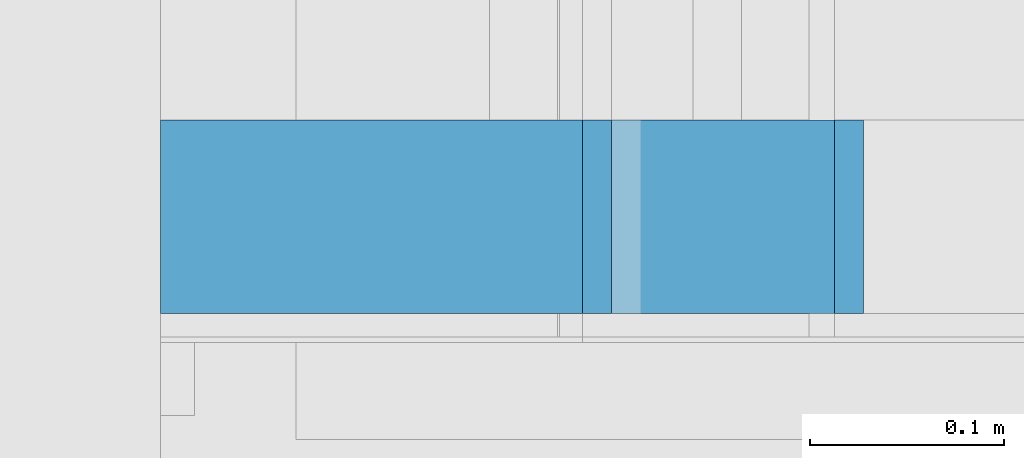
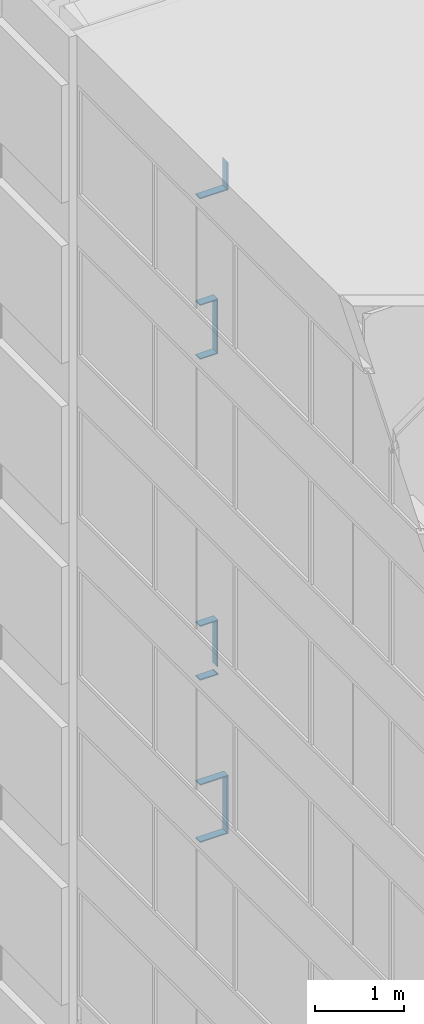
# One storey, part 207 of 583: 12 building element parts, 11 elements without a shape of their own.
"""IFC2X3 building model written with IfcOpenShell, lengths in metres."""

from ifc_helpers import new_model, entity, si_unit, converted_unit, derived_unit, money_unit, direction, frame, origin_with_axes, place, context, subcontext, project, spatial, polyline, outline, extrude, material, type_object, element, aggregate, save


model = new_model("IFC2X3")

# Units and contexts
model_context = context("Model", 3, precision=1e-05, world=origin_with_axes(), true_north=direction((0.0, 1.0)))
body_context = subcontext(model_context, "Body", "Model", "MODEL_VIEW", scale=1.0)
ifc_project = project(units=[si_unit("LENGTHUNIT", "METRE"), si_unit("AREAUNIT", "SQUARE_METRE"), si_unit("VOLUMEUNIT", "CUBIC_METRE"), si_unit("ABSORBEDDOSEUNIT", "GRAY"), si_unit("AMOUNTOFSUBSTANCEUNIT", "MOLE"), si_unit("DOSEEQUIVALENTUNIT", "SIEVERT"), si_unit("ELECTRICCAPACITANCEUNIT", "FARAD"), si_unit("ELECTRICCHARGEUNIT", "COULOMB"), si_unit("ELECTRICCONDUCTANCEUNIT", "SIEMENS"), si_unit("ELECTRICCURRENTUNIT", "AMPERE"), si_unit("ELECTRICRESISTANCEUNIT", "OHM"), si_unit("ELECTRICVOLTAGEUNIT", "VOLT"), si_unit("ENERGYUNIT", "JOULE"), si_unit("FORCEUNIT", "NEWTON"), si_unit("FREQUENCYUNIT", "HERTZ"), si_unit("ILLUMINANCEUNIT", "LUX"), si_unit("INDUCTANCEUNIT", "HENRY"), si_unit("LUMINOUSFLUXUNIT", "LUMEN"), si_unit("LUMINOUSINTENSITYUNIT", "CANDELA"), si_unit("MAGNETICFLUXDENSITYUNIT", "TESLA"), si_unit("MAGNETICFLUXUNIT", "WEBER"), si_unit("MASSUNIT", "GRAM"), converted_unit("PLANEANGLEUNIT", "degree", entity("IfcReal", 0.0174532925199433), si_unit("PLANEANGLEUNIT", "RADIAN"), dimensions=[0, 0, 0, 0, 0, 0, 0]), si_unit("POWERUNIT", "WATT"), si_unit("PRESSUREUNIT", "PASCAL"), si_unit("RADIOACTIVITYUNIT", "BECQUEREL"), si_unit("SOLIDANGLEUNIT", "STERADIAN"), si_unit("THERMODYNAMICTEMPERATUREUNIT", "KELVIN"), si_unit("TIMEUNIT", "SECOND"), derived_unit("ACCELERATIONUNIT", [(si_unit("LENGTHUNIT", "METRE"), 1), (si_unit("TIMEUNIT", "SECOND"), -2)]), derived_unit("ANGULARVELOCITYUNIT", [(converted_unit("PLANEANGLEUNIT", "degree", entity("IfcReal", 0.0174532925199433), si_unit("PLANEANGLEUNIT", "RADIAN"), dimensions=[0, 0, 0, 0, 0, 0, 0]), 1), (si_unit("TIMEUNIT", "SECOND"), -1)]), derived_unit("CURVATUREUNIT", [(converted_unit("PLANEANGLEUNIT", "degree", entity("IfcReal", 0.0174532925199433), si_unit("PLANEANGLEUNIT", "RADIAN"), dimensions=[0, 0, 0, 0, 0, 0, 0]), 1), (si_unit("LENGTHUNIT", "METRE"), -1)]), derived_unit("DYNAMICVISCOSITYUNIT", [(si_unit("PRESSUREUNIT", "PASCAL"), 1), (si_unit("TIMEUNIT", "SECOND"), 1)]), derived_unit("HEATFLUXDENSITYUNIT", [(si_unit("POWERUNIT", "WATT"), 1), (si_unit("LENGTHUNIT", "METRE"), -2)]), derived_unit("HEATINGVALUEUNIT", [(si_unit("ENERGYUNIT", "JOULE"), 1), (si_unit("MASSUNIT", "GRAM"), -1)]), derived_unit("INTEGERCOUNTRATEUNIT", [(si_unit("TIMEUNIT", "SECOND"), -1)]), derived_unit("IONCONCENTRATIONUNIT", [(si_unit("MASSUNIT", "GRAM"), 1), (si_unit("VOLUMEUNIT", "CUBIC_METRE"), -1)]), derived_unit("ISOTHERMALMOISTURECAPACITYUNIT", [(si_unit("VOLUMEUNIT", "CUBIC_METRE"), 1), (si_unit("MASSUNIT", "GRAM"), -1)]), derived_unit("KINEMATICVISCOSITYUNIT", [(si_unit("AREAUNIT", "SQUARE_METRE"), 1), (si_unit("TIMEUNIT", "SECOND"), -1)]), derived_unit("LINEARFORCEUNIT", [(si_unit("FORCEUNIT", "NEWTON"), 1), (si_unit("LENGTHUNIT", "METRE"), -1)]), derived_unit("LINEARMOMENTUNIT", [(si_unit("FORCEUNIT", "NEWTON"), 1), (si_unit("LENGTHUNIT", "METRE"), -1)]), derived_unit("LINEARSTIFFNESSUNIT", [(si_unit("FORCEUNIT", "NEWTON"), 1), (si_unit("LENGTHUNIT", "METRE"), -1)]), derived_unit("LINEARVELOCITYUNIT", [(si_unit("LENGTHUNIT", "METRE"), 1), (si_unit("TIMEUNIT", "SECOND"), -1)]), derived_unit("LUMINOUSINTENSITYDISTRIBUTIONUNIT", [(si_unit("LUMINOUSINTENSITYUNIT", "CANDELA"), 1), (si_unit("LUMINOUSFLUXUNIT", "LUMEN"), -1)]), derived_unit("MASSDENSITYUNIT", [(si_unit("MASSUNIT", "GRAM"), 1), (si_unit("VOLUMEUNIT", "CUBIC_METRE"), -1)]), derived_unit("MASSFLOWRATEUNIT", [(si_unit("MASSUNIT", "GRAM"), 1), (si_unit("TIMEUNIT", "SECOND"), -1)]), derived_unit("MASSPERLENGTHUNIT", [(si_unit("MASSUNIT", "GRAM"), 1), (si_unit("LENGTHUNIT", "METRE"), -1)]), derived_unit("MODULUSOFELASTICITYUNIT", [(si_unit("FORCEUNIT", "NEWTON"), 1), (si_unit("AREAUNIT", "SQUARE_METRE"), -1)]), derived_unit("MODULUSOFLINEARSUBGRADEREACTIONUNIT", [(si_unit("FORCEUNIT", "NEWTON"), 1), (si_unit("LENGTHUNIT", "METRE"), -2)]), derived_unit("MODULUSOFROTATIONALSUBGRADEREACTIONUNIT", [(si_unit("FORCEUNIT", "NEWTON"), 1), (si_unit("LENGTHUNIT", "METRE"), 1)]), derived_unit("MODULUSOFSUBGRADEREACTIONUNIT", [(si_unit("FORCEUNIT", "NEWTON"), 1), (si_unit("VOLUMEUNIT", "CUBIC_METRE"), -1)]), derived_unit("MOISTUREDIFFUSIVITYUNIT", [(si_unit("VOLUMEUNIT", "CUBIC_METRE"), 1), (si_unit("TIMEUNIT", "SECOND"), -1)]), derived_unit("MOLECULARWEIGHTUNIT", [(si_unit("MASSUNIT", "GRAM"), 1), (si_unit("AMOUNTOFSUBSTANCEUNIT", "MOLE"), -1)]), derived_unit("PLANARFORCEUNIT", [(si_unit("FORCEUNIT", "NEWTON"), 1), (si_unit("LENGTHUNIT", "METRE"), -2)]), derived_unit("ROTATIONALFREQUENCYUNIT", [(si_unit("TIMEUNIT", "SECOND"), -1)]), derived_unit("ROTATIONALMASSUNIT", [(si_unit("MASSUNIT", "GRAM"), 1), (si_unit("LENGTHUNIT", "METRE"), 2)]), derived_unit("ROTATIONALSTIFFNESSUNIT", [(si_unit("FORCEUNIT", "NEWTON"), 1), (si_unit("LENGTHUNIT", "METRE"), 1), (converted_unit("PLANEANGLEUNIT", "degree", entity("IfcReal", 0.0174532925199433), si_unit("PLANEANGLEUNIT", "RADIAN"), dimensions=[0, 0, 0, 0, 0, 0, 0]), -1)]), derived_unit("SECTIONAREAINTEGRALUNIT", [(si_unit("LENGTHUNIT", "METRE"), 5)]), derived_unit("SECTIONMODULUSUNIT", [(si_unit("LENGTHUNIT", "METRE"), 3)]), derived_unit("SHEARMODULUSUNIT", [(si_unit("FORCEUNIT", "NEWTON"), 1), (si_unit("AREAUNIT", "SQUARE_METRE"), -1)]), derived_unit("SOUNDPOWERUNIT", [(si_unit("ENERGYUNIT", "JOULE"), 1), (si_unit("TIMEUNIT", "SECOND"), -1)]), derived_unit("SPECIFICHEATCAPACITYUNIT", [(si_unit("FORCEUNIT", "NEWTON"), 1), (si_unit("MASSUNIT", "GRAM"), -1), (si_unit("THERMODYNAMICTEMPERATUREUNIT", "KELVIN"), -1)]), derived_unit("TEMPERATUREGRADIENTUNIT", [(si_unit("THERMODYNAMICTEMPERATUREUNIT", "KELVIN"), 1), (si_unit("LENGTHUNIT", "METRE"), -1)]), derived_unit("THERMALADMITTANCEUNIT", [(si_unit("POWERUNIT", "WATT"), 1), (si_unit("AREAUNIT", "SQUARE_METRE"), -1), (si_unit("THERMODYNAMICTEMPERATUREUNIT", "KELVIN"), -1)]), derived_unit("THERMALCONDUCTANCEUNIT", [(si_unit("POWERUNIT", "WATT"), 1), (si_unit("LENGTHUNIT", "METRE"), -1), (si_unit("THERMODYNAMICTEMPERATUREUNIT", "KELVIN"), -1)]), derived_unit("THERMALEXPANSIONCOEFFICIENTUNIT", [(si_unit("THERMODYNAMICTEMPERATUREUNIT", "KELVIN"), -1)]), derived_unit("THERMALRESISTANCEUNIT", [(si_unit("AREAUNIT", "SQUARE_METRE"), 1), (si_unit("POWERUNIT", "WATT"), -1)]), derived_unit("THERMALTRANSMITTANCEUNIT", [(si_unit("POWERUNIT", "WATT"), 1), (si_unit("AREAUNIT", "SQUARE_METRE"), -1), (si_unit("THERMODYNAMICTEMPERATUREUNIT", "KELVIN"), -1)]), derived_unit("TORQUEUNIT", [(si_unit("FORCEUNIT", "NEWTON"), 1), (si_unit("LENGTHUNIT", "METRE"), 1)]), derived_unit("VAPORPERMEABILITYUNIT", [(si_unit("MASSUNIT", "GRAM"), 1), (si_unit("TIMEUNIT", "SECOND"), -1)]), derived_unit("VOLUMETRICFLOWRATEUNIT", [(si_unit("VOLUMEUNIT", "CUBIC_METRE"), 1), (si_unit("TIMEUNIT", "SECOND"), -1)]), derived_unit("WARPINGCONSTANTUNIT", [(si_unit("LENGTHUNIT", "METRE"), 6)]), derived_unit("WARPINGMOMENTUNIT", [(si_unit("FORCEUNIT", "NEWTON"), 1), (si_unit("LENGTHUNIT", "METRE"), 2)]), money_unit("GBP")], contexts=[model_context])

# Site, building, storey
site_placement = place(None, origin_with_axes())
site = spatial("IfcSite", under=ifc_project, at=site_placement, Name="Site", CompositionType="ELEMENT")
building_placement = place(site_placement, origin_with_axes())
building = spatial("IfcBuilding", under=site, at=building_placement, Name="Building01", CompositionType="ELEMENT")
storey_placement = place(building_placement, frame((0.0, 0.0, 20.78), z_axis=(0.0, 0.0, 1.0), x_axis=(1.0, 0.0, 0.0)))
storey = spatial("IfcBuildingStorey", under=building, at=storey_placement, Name="RL", CompositionType="ELEMENT", Elevation=20.78)

# Wall, building element part
wall_type = type_object("IfcWallType", Name="SHE_A-Walls_Type06d_ExternalWallInsulation_48mm", PredefinedType="NOTDEFINED")
wall_1_placement = place(storey_placement, frame((0.1, 12.13, -3.23), z_axis=(0.0, 1.0, 0.0), x_axis=(1.0, 0.0, 0.0)))
wall_1 = element("IfcWall", 1, at=wall_1_placement, inside=storey, type_object=wall_type, Name="6D", ObjectType="SHE_A-Walls_Type06d_ExternalWallInsulation_48mm")
ifc_material = material(Name="A_BSUK_Walls_Timber")
building_element_part_1_placement = place(wall_1_placement, origin_with_axes())
building_element_part_1 = element("IfcBuildingElementPart", 2, at=building_element_part_1_placement, material=ifc_material, Name="2", context=body_context, shape_type="SweptSolid", body=[
    extrude(outline(polyline([(0.363, 0.063), (0.0, 0.063), (0.0, 0.048), (0.348, 0.048), (0.363, 0.063)])), frame((0.0, 0.0, 0.015), z_axis=(0.0, 0.0, 1.0), x_axis=(1.0, 0.0, 0.0)), (0.0, 0.0, 1.0), 0.1),
])
aggregate(wall_1, [building_element_part_1])

wall_2_placement = place(storey_placement, frame((0.4, 12.13, -3.23), z_axis=(0.0, 1.0, 0.0), x_axis=(0.0, 0.0, 1.0)))
wall_2 = element("IfcWall", 3, at=wall_2_placement, inside=storey, type_object=wall_type, Name="6D", ObjectType="SHE_A-Walls_Type06d_ExternalWallInsulation_48mm")
building_element_part_2_placement = place(wall_2_placement, origin_with_axes())
building_element_part_2 = element("IfcBuildingElementPart", 4, at=building_element_part_2_placement, material=ifc_material, Name="2", context=body_context, shape_type="SweptSolid", body=[
    extrude(outline(polyline([(0.733, 0.063), (-0.063, 0.063), (-0.048, 0.048), (0.718, 0.048), (0.733, 0.063)])), frame((0.0, 0.0, 0.015), z_axis=(0.0, 0.0, 1.0), x_axis=(1.0, 0.0, 0.0)), (0.0, 0.0, 1.0), 0.1),
])
aggregate(wall_2, [building_element_part_2])

wall_3_placement = place(storey_placement, frame((0.4, 12.13, -2.56), z_axis=(0.0, 1.0, 0.0), x_axis=(-1.0, 0.0, 0.0)))
wall_3 = element("IfcWall", 5, at=wall_3_placement, inside=storey, type_object=wall_type, Name="6D", ObjectType="SHE_A-Walls_Type06d_ExternalWallInsulation_48mm")
building_element_part_3_placement = place(wall_3_placement, origin_with_axes())
building_element_part_3 = element("IfcBuildingElementPart", 6, at=building_element_part_3_placement, material=ifc_material, Name="2", context=body_context, shape_type="SweptSolid", body=[
    extrude(outline(polyline([(-0.063, 0.063), (-0.048, 0.048), (0.3, 0.048), (0.3, 0.063), (-0.063, 0.063)])), frame((0.0, 0.0, 0.015), z_axis=(0.0, 0.0, 1.0), x_axis=(1.0, 0.0, 0.0)), (0.0, 0.0, 1.0), 0.1),
])
aggregate(wall_3, [building_element_part_3])

wall_4_placement = place(storey_placement, frame((0.1, 12.13, -1.017), z_axis=(0.0, 1.0, 0.0), x_axis=(1.0, 0.0, 0.0)))
wall_4 = element("IfcWall", 7, at=wall_4_placement, inside=storey, type_object=wall_type, Name="6D", ObjectType="SHE_A-Walls_Type06d_ExternalWallInsulation_48mm")
building_element_part_4_placement = place(wall_4_placement, origin_with_axes())
building_element_part_4 = element("IfcBuildingElementPart", 8, at=building_element_part_4_placement, material=ifc_material, Name="2", context=body_context, shape_type="SweptSolid", body=[
    extrude(outline(polyline([(0.233, 0.063), (0.0, 0.063), (0.0, 0.048), (0.218, 0.048), (0.233, 0.063)])), frame((0.0, 0.0, 0.015), z_axis=(0.0, 0.0, 1.0), x_axis=(1.0, 0.0, 0.0)), (0.0, 0.0, 1.0), 0.1),
])
aggregate(wall_4, [building_element_part_4])

wall_5_placement = place(storey_placement, frame((0.27, 12.13, -0.393), z_axis=(0.0, 1.0, 0.0), x_axis=(-1.0, 0.0, 0.0)))
wall_5 = element("IfcWall", 9, at=wall_5_placement, inside=storey, type_object=wall_type, Name="6D", ObjectType="SHE_A-Walls_Type06d_ExternalWallInsulation_48mm")
building_element_part_5_placement = place(wall_5_placement, origin_with_axes())
building_element_part_5 = element("IfcBuildingElementPart", 10, at=building_element_part_5_placement, material=ifc_material, Name="2", context=body_context, shape_type="SweptSolid", body=[
    extrude(outline(polyline([(-0.063, 0.063), (-0.048, 0.048), (0.17, 0.048), (0.17, 0.063), (-0.063, 0.063)])), frame((0.0, 0.0, 0.015), z_axis=(0.0, 0.0, 1.0), x_axis=(1.0, 0.0, 0.0)), (0.0, 0.0, 1.0), 0.1),
])
aggregate(wall_5, [building_element_part_5])

wall_6_placement = place(storey_placement, frame((0.1, 12.13, 3.363), z_axis=(0.0, 1.0, 0.0), x_axis=(1.0, 0.0, 0.0)))
wall_6 = element("IfcWall", 11, at=wall_6_placement, inside=storey, type_object=wall_type, Name="6D", ObjectType="SHE_A-Walls_Type06d_ExternalWallInsulation_48mm")
building_element_part_6_placement = place(wall_6_placement, origin_with_axes())
building_element_part_6 = element("IfcBuildingElementPart", 12, at=building_element_part_6_placement, material=ifc_material, Name="2", context=body_context, shape_type="SweptSolid", body=[
    extrude(outline(polyline([(0.233, 0.063), (0.0, 0.063), (0.0, 0.048), (0.218, 0.048), (0.233, 0.063)])), frame((0.0, 0.0, 0.015), z_axis=(0.0, 0.0, 1.0), x_axis=(1.0, 0.0, 0.0)), (0.0, 0.0, 1.0), 0.1),
])
aggregate(wall_6, [building_element_part_6])

wall_7_placement = place(storey_placement, frame((0.27, 12.13, 3.363), z_axis=(0.0, 1.0, 0.0), x_axis=(0.0, 0.0, 1.0)))
wall_7 = element("IfcWall", 13, at=wall_7_placement, inside=storey, type_object=wall_type, Name="6D", ObjectType="SHE_A-Walls_Type06d_ExternalWallInsulation_48mm")
building_element_part_7_placement = place(wall_7_placement, origin_with_axes())
building_element_part_7 = element("IfcBuildingElementPart", 14, at=building_element_part_7_placement, material=ifc_material, Name="2", context=body_context, shape_type="SweptSolid", body=[
    extrude(outline(polyline([(0.687, 0.063), (-0.063, 0.063), (-0.048, 0.048), (0.672, 0.048), (0.687, 0.063)])), frame((0.0, 0.0, 0.015), z_axis=(0.0, 0.0, 1.0), x_axis=(1.0, 0.0, 0.0)), (0.0, 0.0, 1.0), 0.1),
])
aggregate(wall_7, [building_element_part_7])

wall_8_placement = place(storey_placement, frame((0.27, 12.13, 3.987), z_axis=(0.0, 1.0, 0.0), x_axis=(-1.0, 0.0, 0.0)))
wall_8 = element("IfcWall", 15, at=wall_8_placement, inside=storey, type_object=wall_type, Name="6D", ObjectType="SHE_A-Walls_Type06d_ExternalWallInsulation_48mm")
building_element_part_8_placement = place(wall_8_placement, origin_with_axes())
building_element_part_8 = element("IfcBuildingElementPart", 16, at=building_element_part_8_placement, material=ifc_material, Name="2", context=body_context, shape_type="SweptSolid", body=[
    extrude(outline(polyline([(-0.063, 0.063), (-0.048, 0.048), (0.17, 0.048), (0.17, 0.063), (-0.063, 0.063)])), frame((0.0, 0.0, 0.015), z_axis=(0.0, 0.0, 1.0), x_axis=(1.0, 0.0, 0.0)), (0.0, 0.0, 1.0), 0.1),
])
aggregate(wall_8, [building_element_part_8])

wall_9_placement = place(storey_placement, frame((0.1, 12.13, 5.553), z_axis=(0.0, 1.0, 0.0), x_axis=(1.0, 0.0, 0.0)))
wall_9 = element("IfcWall", 17, at=wall_9_placement, inside=storey, type_object=wall_type, Name="6D", ObjectType="SHE_A-Walls_Type06d_ExternalWallInsulation_48mm")
building_element_part_9_placement = place(wall_9_placement, origin_with_axes())
building_element_part_9 = element("IfcBuildingElementPart", 18, at=building_element_part_9_placement, material=ifc_material, Name="2", context=body_context, shape_type="SweptSolid", body=[
    extrude(outline(polyline([(0.363, 0.063), (0.0, 0.063), (0.0, 0.048), (0.348, 0.048), (0.363, 0.063)])), frame((0.0, 0.0, 0.015), z_axis=(0.0, 0.0, 1.0), x_axis=(1.0, 0.0, 0.0)), (0.0, 0.0, 1.0), 0.1),
])
aggregate(wall_9, [building_element_part_9])

wall_10_placement = place(storey_placement, frame((0.4, 12.13, 5.553), z_axis=(0.0, 1.0, 0.0), x_axis=(0.0, 0.0, 1.0)))
wall_10 = element("IfcWall", 19, at=wall_10_placement, inside=storey, type_object=wall_type, Name="6D", ObjectType="SHE_A-Walls_Type06d_ExternalWallInsulation_48mm")
building_element_part_10_placement = place(wall_10_placement, origin_with_axes())
building_element_part_10 = element("IfcBuildingElementPart", 20, at=building_element_part_10_placement, material=ifc_material, Name="2", context=body_context, shape_type="SweptSolid", body=[
    extrude(outline(polyline([(0.314, 0.063), (-0.063, 0.063), (-0.048, 0.048), (0.329, 0.048), (0.314, 0.063)])), frame((0.0, 0.0, 0.015), z_axis=(0.0, 0.0, 1.0), x_axis=(1.0, 0.0, 0.0)), (0.0, 0.0, 1.0), 0.1),
])
aggregate(wall_10, [building_element_part_10])

# Wall, building element parts
wall_11_placement = place(storey_placement, frame((0.27, 12.13, -1.017), z_axis=(0.0, 1.0, 0.0), x_axis=(0.0, 0.0, 1.0)))
wall_11 = element("IfcWall", 21, at=wall_11_placement, inside=storey, type_object=wall_type, Name="6D", ObjectType="SHE_A-Walls_Type06d_ExternalWallInsulation_48mm")
placement = place(wall_11_placement, origin_with_axes())
building_element_part_11 = element("IfcBuildingElementPart", 22, at=placement, material=ifc_material, Name="2", context=body_context, shape_type="SweptSolid", body=[
    extrude(outline(polyline([(-0.063, 0.063), (-0.048, 0.048), (-0.047717, 0.048), (-0.047717, 0.063), (-0.063, 0.063)])), frame((0.0, 0.0, 0.015), z_axis=(0.0, 0.0, 1.0), x_axis=(1.0, 0.0, 0.0)), (0.0, 0.0, 1.0), 0.1),
])
building_element_part_12 = element("IfcBuildingElementPart", 23, at=placement, material=ifc_material, Name="3", context=body_context, shape_type="SweptSolid", body=[
    extrude(outline(polyline([(0.687, 0.063), (0.047, 0.063), (0.047, 0.048), (0.672, 0.048), (0.687, 0.063)])), frame((0.0, 0.0, 0.015), z_axis=(0.0, 0.0, 1.0), x_axis=(1.0, 0.0, 0.0)), (0.0, 0.0, 1.0), 0.1),
])
aggregate(wall_11, [building_element_part_11, building_element_part_12])

save(model, "model.ifc")
